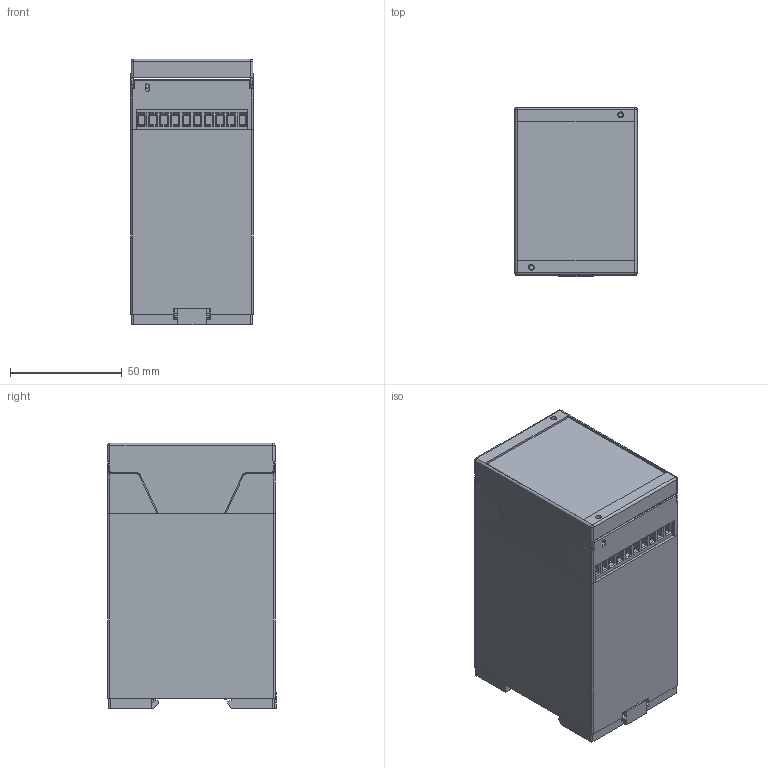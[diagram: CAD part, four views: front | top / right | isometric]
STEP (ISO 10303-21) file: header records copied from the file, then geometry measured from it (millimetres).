
FILE_DESCRIPTION(/* description */ (''),/* implementation_level */ '2;1');
FILE_NAME(/* name */ 'F:\User\Daten\DWG\Anw\KH\Handelsmarketing Wellmann KH\CombiNorm-Classic\65005510.HMT1.stp',/* time_stamp */ '2021-04-29T11:23:24+02:00',/* author */ ('haertel'),/* organization */ (''),/* preprocessor_version */ 'ST-DEVELOPER v17.2',/* originating_system */ 'Autodesk Inventor 2019',/* authorisation */ '');
FILE_SCHEMA (('AUTOMOTIVE_DESIGN { 1 0 10303 214 3 1 1 }'));
Length unit declared in the file: millimetre
Products named in the file (4): 65005510.HMT1; 65005510_CN 55 AK; 65005560_CNH 55 N; 66010100_AK700 10 H
Assembly tree (4 placements, depth 2):
  65005510.HMT1
    65005510_CN 55 AK
    65005560_CNH 55 N
    66010100_AK700 10 H  x2
Bounding box: 55 x 75.55 x 118.7 mm (x, y, z)
Volume: 98346.8 mm3; surface area: 115215.9 mm2
Topology: 6 solids, 6 shells, 2163 faces, 5818 edges, 3807 vertices
Faces by surface type: plane 1604, cylinder 320, cone 157, torus 64, sphere 18
Full cylindrical faces by diameter (mm): 1 x18, 1.2 x18, 3.6 x20, 3.7 x20, 4 x20
Entity records: 51130 total; most frequent: CARTESIAN_POINT 9553, ORIENTED_EDGE 8792, DIRECTION 8363, EDGE_CURVE 4396, LINE 3401, VECTOR 3401, VERTEX_POINT 2884, AXIS2_PLACEMENT_3D 2481
